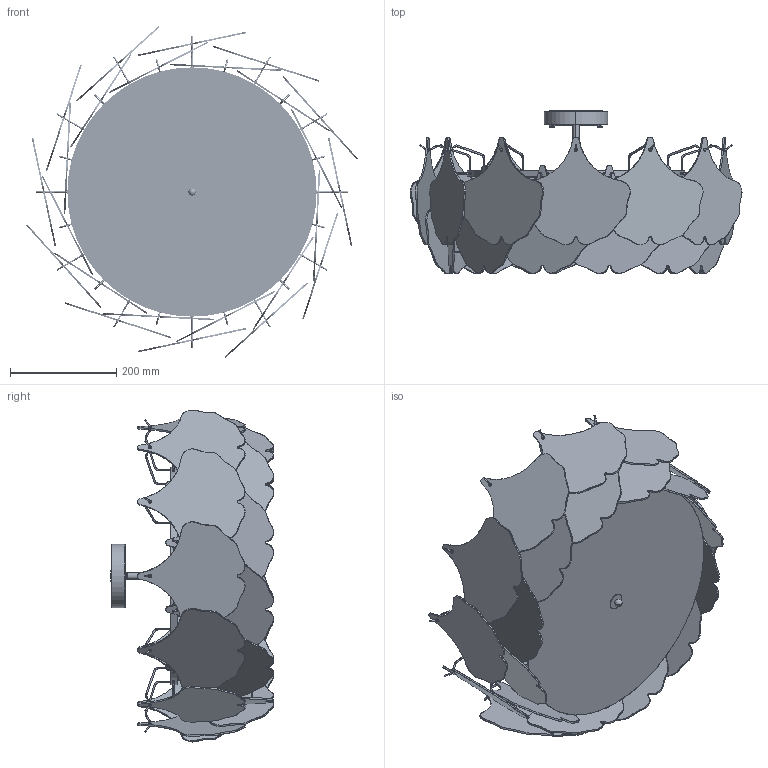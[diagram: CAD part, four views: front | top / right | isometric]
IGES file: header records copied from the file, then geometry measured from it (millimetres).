
Start section: SolidWorks IGES file using analytic representation for surfaces
Global section: file name: F:\燠隴矨\3D\2026-1\Maple Leaf Cluster Ceiling Light-D60cm.IGS,15; native system: HSolidWorks 2022; preprocessor: SolidWorks 2022; author: MyPC; date: 260105.151758; units: millimetre
Bounding box: 626.21 x 307.16 x 626.21 mm (x, y, z)
Surface area: 1886772.6 mm2 (no closed solid volume)
Topology: 0 solids, 0 shells, 1032 faces, 25210 edges, 25201 vertices
Faces by surface type: revolution 580, bspline 452
